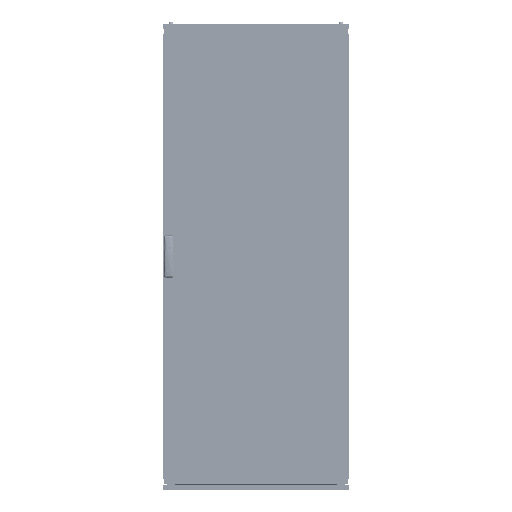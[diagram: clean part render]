
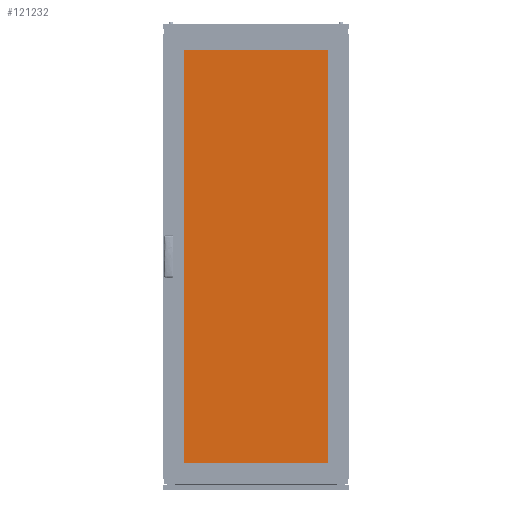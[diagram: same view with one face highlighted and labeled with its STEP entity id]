
A CAD part, top view. The second image highlights one B-rep face of the part: STEP entity #121232.
In plain terms, the highlighted planar face has unit normal (0, 0, 1).
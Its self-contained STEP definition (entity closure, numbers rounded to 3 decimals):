
#2476 = LINE ( 'NONE', #208937, #190504 ) ;
#5325 = VERTEX_POINT ( 'NONE', #160141 ) ;
#10736 = CARTESIAN_POINT ( 'NONE',  ( -330., 910., 5. ) ) ;
#39550 = ORIENTED_EDGE ( 'NONE', *, *, #133793, .T. ) ;
#65000 = CARTESIAN_POINT ( 'NONE',  ( -330., -910., 5. ) ) ;
#66508 = EDGE_CURVE ( 'NONE', #100904, #186577, #203236, .T. ) ;
#67427 = EDGE_CURVE ( 'NONE', #106290, #100904, #163487, .T. ) ;
#78323 = ORIENTED_EDGE ( 'NONE', *, *, #67427, .T. ) ;
#87296 = VECTOR ( 'NONE', #101033, 1000. ) ;
#90134 = LINE ( 'NONE', #105850, #205605 ) ;
#94843 = VECTOR ( 'NONE', #211759, 1000. ) ;
#100904 = VERTEX_POINT ( 'NONE', #10736 ) ;
#101033 = DIRECTION ( 'NONE',  ( 0., -1., 0. ) ) ;
#105635 = DIRECTION ( 'NONE',  ( 1., 0., 0. ) ) ;
#105850 = CARTESIAN_POINT ( 'NONE',  ( 330., -910., 5. ) ) ;
#106290 = VERTEX_POINT ( 'NONE', #187667 ) ;
#110367 = CARTESIAN_POINT ( 'NONE',  ( 0., 0., 5. ) ) ;
#117905 = CARTESIAN_POINT ( 'NONE',  ( -330., -910., 5. ) ) ;
#121232 = ADVANCED_FACE ( 'NONE', ( #210335 ), #144060, .F. ) ;
#125327 = CARTESIAN_POINT ( 'NONE',  ( -330., 910., 5. ) ) ;
#133793 = EDGE_CURVE ( 'NONE', #5325, #106290, #90134, .T. ) ;
#144060 = PLANE ( 'NONE',  #187794 ) ;
#160141 = CARTESIAN_POINT ( 'NONE',  ( 330., -910., 5. ) ) ;
#163487 = LINE ( 'NONE', #125327, #94843 ) ;
#178224 = EDGE_LOOP ( 'NONE', ( #39550, #78323, #188132, #216138 ) ) ;
#186577 = VERTEX_POINT ( 'NONE', #65000 ) ;
#187667 = CARTESIAN_POINT ( 'NONE',  ( 330., 910., 5. ) ) ;
#187794 = AXIS2_PLACEMENT_3D ( 'NONE', #110367, #191288, #209226 ) ;
#188132 = ORIENTED_EDGE ( 'NONE', *, *, #66508, .T. ) ;
#190105 = DIRECTION ( 'NONE',  ( 0., 1., 0. ) ) ;
#190504 = VECTOR ( 'NONE', #105635, 1000. ) ;
#191288 = DIRECTION ( 'NONE',  ( 0., 0., -1. ) ) ;
#202172 = EDGE_CURVE ( 'NONE', #186577, #5325, #2476, .T. ) ;
#203236 = LINE ( 'NONE', #117905, #87296 ) ;
#205605 = VECTOR ( 'NONE', #190105, 1000. ) ;
#208937 = CARTESIAN_POINT ( 'NONE',  ( -330., -910., 5. ) ) ;
#209226 = DIRECTION ( 'NONE',  ( -1., 0., 0. ) ) ;
#210335 = FACE_OUTER_BOUND ( 'NONE', #178224, .T. ) ;
#211759 = DIRECTION ( 'NONE',  ( -1., 0., 0. ) ) ;
#216138 = ORIENTED_EDGE ( 'NONE', *, *, #202172, .T. ) ;
